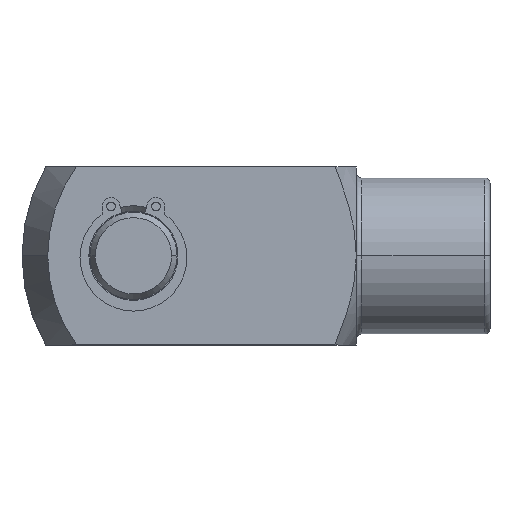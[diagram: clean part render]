
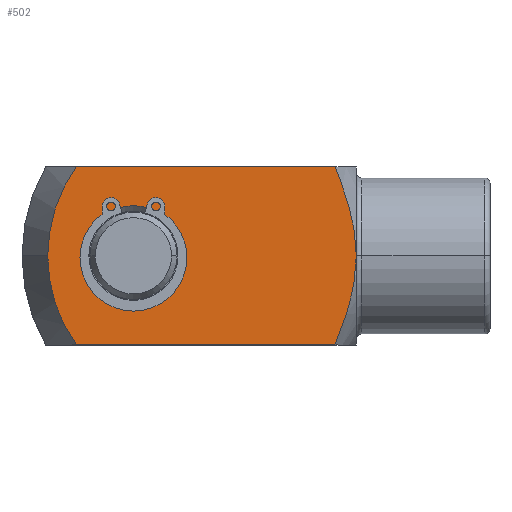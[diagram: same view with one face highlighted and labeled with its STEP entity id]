
A CAD part, top view. The second image highlights one B-rep face of the part: STEP entity #502.
In plain terms, the highlighted planar face has unit normal (0, 0, 1).
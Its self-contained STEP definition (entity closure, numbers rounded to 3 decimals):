
#236 = EDGE_CURVE ( 'NONE', #237, #238, #1024, .T. ) ;
#237 = VERTEX_POINT ( 'NONE', #1019 ) ;
#238 = VERTEX_POINT ( 'NONE', #1018 ) ;
#267 = VERTEX_POINT ( 'NONE', #1041 ) ;
#268 = VERTEX_POINT ( 'NONE', #1038 ) ;
#269 = EDGE_CURVE ( 'NONE', #267, #268, #1090, .T. ) ;
#502 = ADVANCED_FACE ( 'NONE', ( #1502, #1501 ), #1500, .T. ) ;
#503 = ORIENTED_EDGE ( 'NONE', *, *, #269, .T. ) ;
#504 = EDGE_CURVE ( 'NONE', #268, #267, #1494, .T. ) ;
#520 = EDGE_LOOP ( 'NONE', ( #576, #574, #567, #568, #571, #531 ) ) ;
#531 = ORIENTED_EDGE ( 'NONE', *, *, #623, .F. ) ;
#565 = VERTEX_POINT ( 'NONE', #1621 ) ;
#566 = EDGE_CURVE ( 'NONE', #565, #570, #1620, .T. ) ;
#567 = ORIENTED_EDGE ( 'NONE', *, *, #236, .T. ) ;
#568 = ORIENTED_EDGE ( 'NONE', *, *, #569, .T. ) ;
#569 = EDGE_CURVE ( 'NONE', #238, #570, #1619, .T. ) ;
#570 = VERTEX_POINT ( 'NONE', #1609 ) ;
#571 = ORIENTED_EDGE ( 'NONE', *, *, #566, .F. ) ;
#572 = EDGE_CURVE ( 'NONE', #575, #237, #1608, .T. ) ;
#573 = VERTEX_POINT ( 'NONE', #1662 ) ;
#574 = ORIENTED_EDGE ( 'NONE', *, *, #572, .T. ) ;
#575 = VERTEX_POINT ( 'NONE', #1661 ) ;
#576 = ORIENTED_EDGE ( 'NONE', *, *, #577, .F. ) ;
#577 = EDGE_CURVE ( 'NONE', #575, #573, #1660, .T. ) ;
#579 = EDGE_LOOP ( 'NONE', ( #503, #581 ) ) ;
#581 = ORIENTED_EDGE ( 'NONE', *, *, #504, .T. ) ;
#623 = EDGE_CURVE ( 'NONE', #573, #565, #1741, .T. ) ;
#1018 = CARTESIAN_POINT ( 'NONE',  ( -37.11, -8., 8. ) ) ;
#1019 = CARTESIAN_POINT ( 'NONE',  ( -39.691, 0., 8. ) ) ;
#1020 = DIRECTION ( 'NONE',  ( 1., 0., 0. ) ) ;
#1021 = DIRECTION ( 'NONE',  ( 0., 0., 1. ) ) ;
#1022 = CARTESIAN_POINT ( 'NONE',  ( -26., 0., 8. ) ) ;
#1023 = AXIS2_PLACEMENT_3D ( 'NONE', #1022, #1021, #1020 ) ;
#1024 = CIRCLE ( 'NONE', #1023, 13.691 ) ;
#1038 = CARTESIAN_POINT ( 'NONE',  ( -36.5, 0., 8. ) ) ;
#1041 = CARTESIAN_POINT ( 'NONE',  ( -27.5, 0., 8. ) ) ;
#1086 = DIRECTION ( 'NONE',  ( 1., 0., 0. ) ) ;
#1087 = DIRECTION ( 'NONE',  ( 0., 0., -1. ) ) ;
#1088 = CARTESIAN_POINT ( 'NONE',  ( -32., 0., 8. ) ) ;
#1089 = AXIS2_PLACEMENT_3D ( 'NONE', #1088, #1087, #1086 ) ;
#1090 = CIRCLE ( 'NONE', #1089, 4.5 ) ;
#1491 = DIRECTION ( 'NONE',  ( 1., 0., 0. ) ) ;
#1492 = DIRECTION ( 'NONE',  ( 0., 0., -1. ) ) ;
#1493 = AXIS2_PLACEMENT_3D ( 'NONE', #1498, #1492, #1491 ) ;
#1494 = CIRCLE ( 'NONE', #1493, 4.5 ) ;
#1495 = DIRECTION ( 'NONE',  ( 1., 0., 0. ) ) ;
#1496 = DIRECTION ( 'NONE',  ( 0., 0., 1. ) ) ;
#1497 = CARTESIAN_POINT ( 'NONE',  ( -42., -8., 8. ) ) ;
#1498 = CARTESIAN_POINT ( 'NONE',  ( -32., 0., 8. ) ) ;
#1499 = AXIS2_PLACEMENT_3D ( 'NONE', #1497, #1496, #1495 ) ;
#1500 = PLANE ( 'NONE',  #1499 ) ;
#1501 = FACE_OUTER_BOUND ( 'NONE', #520, .T. ) ;
#1502 = FACE_BOUND ( 'NONE', #579, .T. ) ;
#1607 = AXIS2_PLACEMENT_3D ( 'NONE', #1665, #1664, #1663 ) ;
#1608 = CIRCLE ( 'NONE', #1607, 13.691 ) ;
#1609 = CARTESIAN_POINT ( 'NONE',  ( -13.913, -8., 8. ) ) ;
#1610 = DIRECTION ( 'NONE',  ( 1., 0., 0. ) ) ;
#1611 = VECTOR ( 'NONE', #1610, 1000. ) ;
#1612 = CARTESIAN_POINT ( 'NONE',  ( -13.913, -8., 8. ) ) ;
#1613 = CARTESIAN_POINT ( 'NONE',  ( -13.39, -6.719, 8. ) ) ;
#1614 = CARTESIAN_POINT ( 'NONE',  ( -12.915, -5.409, 8. ) ) ;
#1615 = CARTESIAN_POINT ( 'NONE',  ( -12.217, -2.751, 8. ) ) ;
#1616 = CARTESIAN_POINT ( 'NONE',  ( -12., -1.396, 8. ) ) ;
#1617 = CARTESIAN_POINT ( 'NONE',  ( -12., 0., 8. ) ) ;
#1618 = CARTESIAN_POINT ( 'NONE',  ( -42., -8., 8. ) ) ;
#1619 = LINE ( 'NONE', #1618, #1611 ) ;
#1620 = B_SPLINE_CURVE_WITH_KNOTS ( 'NONE', 3,
 ( #1617, #1616, #1615, #1614, #1613, #1612 ),
 .UNSPECIFIED., .F., .F.,
 ( 4, 2, 4 ),
 ( 0.032, 0.036, 0.041 ),
 .UNSPECIFIED. ) ;
#1621 = CARTESIAN_POINT ( 'NONE',  ( -12., 0., 8. ) ) ;
#1657 = DIRECTION ( 'NONE',  ( 1., 0., 0. ) ) ;
#1658 = VECTOR ( 'NONE', #1657, 1000. ) ;
#1659 = CARTESIAN_POINT ( 'NONE',  ( -42., 8., 8. ) ) ;
#1660 = LINE ( 'NONE', #1659, #1658 ) ;
#1661 = CARTESIAN_POINT ( 'NONE',  ( -37.11, 8., 8. ) ) ;
#1662 = CARTESIAN_POINT ( 'NONE',  ( -13.913, 8., 8. ) ) ;
#1663 = DIRECTION ( 'NONE',  ( 1., 0., 0. ) ) ;
#1664 = DIRECTION ( 'NONE',  ( 0., 0., 1. ) ) ;
#1665 = CARTESIAN_POINT ( 'NONE',  ( -26., 0., 8. ) ) ;
#1727 = CARTESIAN_POINT ( 'NONE',  ( -12., 0., 8. ) ) ;
#1728 = CARTESIAN_POINT ( 'NONE',  ( -12., 0.348, 8. ) ) ;
#1729 = CARTESIAN_POINT ( 'NONE',  ( -12.013, 0.697, 8. ) ) ;
#1730 = CARTESIAN_POINT ( 'NONE',  ( -12.065, 1.388, 8. ) ) ;
#1731 = CARTESIAN_POINT ( 'NONE',  ( -12.103, 1.731, 8. ) ) ;
#1732 = CARTESIAN_POINT ( 'NONE',  ( -12.251, 2.751, 8. ) ) ;
#1733 = CARTESIAN_POINT ( 'NONE',  ( -12.393, 3.422, 8. ) ) ;
#1734 = CARTESIAN_POINT ( 'NONE',  ( -12.917, 5.415, 8. ) ) ;
#1735 = CARTESIAN_POINT ( 'NONE',  ( -13.392, 6.723, 8. ) ) ;
#1736 = CARTESIAN_POINT ( 'NONE',  ( -13.913, 8., 8. ) ) ;
#1741 = B_SPLINE_CURVE_WITH_KNOTS ( 'NONE', 3,
 ( #1736, #1735, #1734, #1733, #1732, #1731, #1730, #1729, #1728, #1727 ),
 .UNSPECIFIED., .F., .F.,
 ( 4, 2, 2, 2, 4 ),
 ( 0.024, 0.028, 0.03, 0.031, 0.032 ),
 .UNSPECIFIED. ) ;
